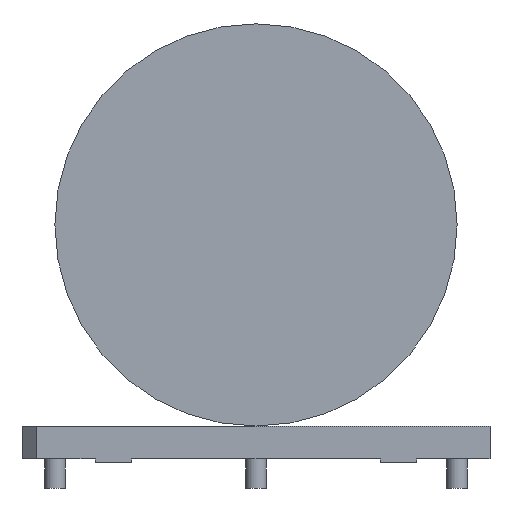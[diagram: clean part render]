
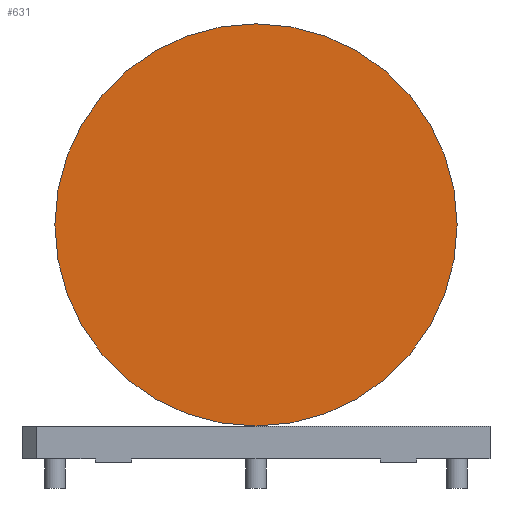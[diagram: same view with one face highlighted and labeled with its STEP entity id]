
A CAD part, front view. The second image highlights one B-rep face of the part: STEP entity #631.
In plain terms, the highlighted planar face has unit normal (0, -1, 0) by its records, which use the part's own axes.
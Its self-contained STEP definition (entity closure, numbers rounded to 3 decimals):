
#46=CIRCLE('',#691,27.5);
#79=FACE_OUTER_BOUND('',#130,.T.);
#130=EDGE_LOOP('',(#532));
#284=VERTEX_POINT('',#905);
#397=EDGE_CURVE('',#284,#284,#46,.T.);
#532=ORIENTED_EDGE('',*,*,#397,.T.);
#593=PLANE('',#690);
#631=ADVANCED_FACE('',(#79),#593,.F.);
#690=AXIS2_PLACEMENT_3D('',#1030,#847,#848);
#691=AXIS2_PLACEMENT_3D('',#1031,#849,#850);
#847=DIRECTION('center_axis',(0.,1.,0.));
#848=DIRECTION('ref_axis',(0.,0.,1.));
#849=DIRECTION('center_axis',(0.,-1.,0.));
#850=DIRECTION('ref_axis',(1.,0.,0.));
#905=CARTESIAN_POINT('',(0.,-16.,4.5));
#1030=CARTESIAN_POINT('Origin',(0.,-16.,32.));
#1031=CARTESIAN_POINT('Origin',(0.,-16.,32.));
